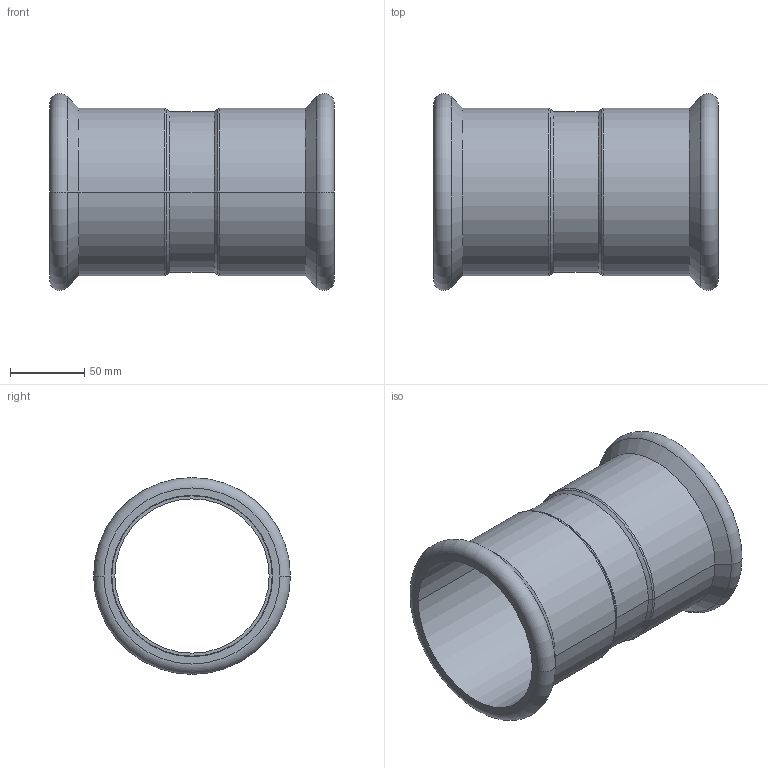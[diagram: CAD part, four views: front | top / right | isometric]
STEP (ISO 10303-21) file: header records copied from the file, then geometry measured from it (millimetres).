
FILE_DESCRIPTION(('CoCreate Modeling STEP Export'),'2;1');
FILE_NAME('C1401 108x108.stp','2014-11-06T16:54:41',(''),(''),'CoCreate Modeling STEP processor for AP214 (Solid Model)','CoCreate Modeling 17.00A 17-Jun-2010 (C) Parametric Technology GmbH','');
FILE_SCHEMA(('AUTOMOTIVE_DESIGN { 1 0 10303 214 1 1 1 1 }'));
Length unit declared in the file: millimetre
Products named in the file (2): C1401_108x108
Assembly tree (1 placements, depth 2):
  C1401_108x108
    C1401_108x108
Bounding box: 192 x 132.58 x 132.58 mm (x, y, z)
Volume: 240077.4 mm3; surface area: 146587.5 mm2
Topology: 1 solids, 1 shells, 38 faces, 78 edges, 46 vertices
Faces by surface type: cylinder 16, torus 8, cone 8, plane 6
Entity records: 861 total; most frequent: ORIENTED_EDGE 156, DIRECTION 132, CARTESIAN_POINT 124, EDGE_CURVE 78, AXIS2_PLACEMENT_3D 54, VERTEX_POINT 46, EDGE_LOOP 44, FACE_OUTER_BOUND 38
